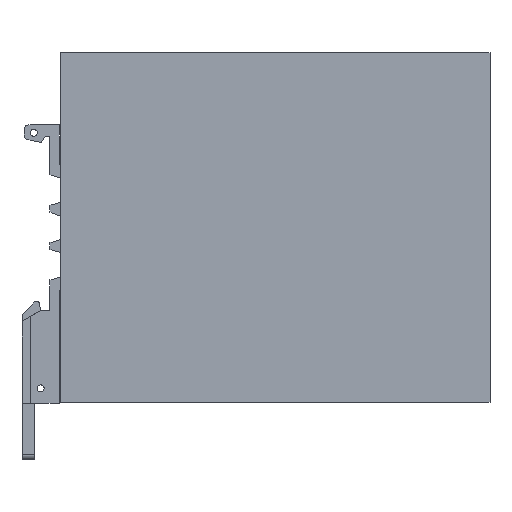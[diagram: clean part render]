
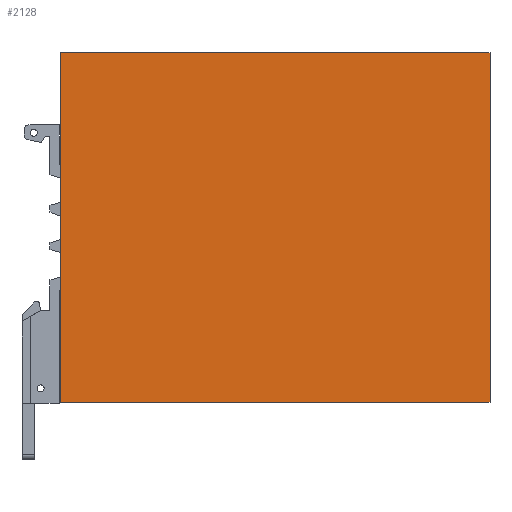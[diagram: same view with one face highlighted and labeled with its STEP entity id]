
A CAD part, front view. The second image highlights one B-rep face of the part: STEP entity #2128.
In plain terms, the highlighted planar face has unit normal (0, -1, 0).
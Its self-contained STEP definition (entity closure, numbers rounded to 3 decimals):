
#2128=ADVANCED_FACE('',(#4198),#3114,.T.);
#3114=PLANE('',#23897);
#4198=FACE_OUTER_BOUND('',#5424,.T.);
#5424=EDGE_LOOP('',(#11588,#11589,#11590,#11591));
#11588=ORIENTED_EDGE('',*,*,#14391,.T.);
#11589=ORIENTED_EDGE('',*,*,#13774,.T.);
#11590=ORIENTED_EDGE('',*,*,#13780,.T.);
#11591=ORIENTED_EDGE('',*,*,#13778,.T.);
#11668=VERTEX_POINT('',#29583);
#11669=VERTEX_POINT('',#29584);
#11670=VERTEX_POINT('',#29589);
#11671=VERTEX_POINT('',#29591);
#13774=EDGE_CURVE('',#11668,#11669,#16886,.T.);
#13778=EDGE_CURVE('',#11671,#11670,#16890,.T.);
#13780=EDGE_CURVE('',#11669,#11671,#16892,.T.);
#14391=EDGE_CURVE('',#11670,#11668,#17429,.T.);
#16886=LINE('',#29582,#19684);
#16890=LINE('',#29590,#19688);
#16892=LINE('',#29594,#19690);
#17429=LINE('',#30816,#20227);
#19684=VECTOR('',#23918,1.);
#19688=VECTOR('',#23924,1.);
#19690=VECTOR('',#23928,1.);
#20227=VECTOR('',#24615,1.);
#23897=AXIS2_PLACEMENT_3D('',#35895,#29546,#29547);
#23918=DIRECTION('',(1.,0.,0.));
#23924=DIRECTION('',(-1.,0.,0.));
#23928=DIRECTION('',(0.,0.,1.));
#24615=DIRECTION('',(0.,0.,-1.));
#29546=DIRECTION('',(0.,-1.,0.));
#29547=DIRECTION('',(0.,0.,-1.));
#29582=CARTESIAN_POINT('',(-46.,-23.5,-37.5));
#29583=CARTESIAN_POINT('',(-46.,-23.5,-37.5));
#29584=CARTESIAN_POINT('',(46.,-23.5,-37.5));
#29589=CARTESIAN_POINT('',(-46.,-23.5,37.5));
#29590=CARTESIAN_POINT('',(46.,-23.5,37.5));
#29591=CARTESIAN_POINT('',(46.,-23.5,37.5));
#29594=CARTESIAN_POINT('',(46.,-23.5,-37.5));
#30816=CARTESIAN_POINT('',(-46.,-23.5,37.5));
#35895=CARTESIAN_POINT('',(-46.,-23.5,-37.5));
